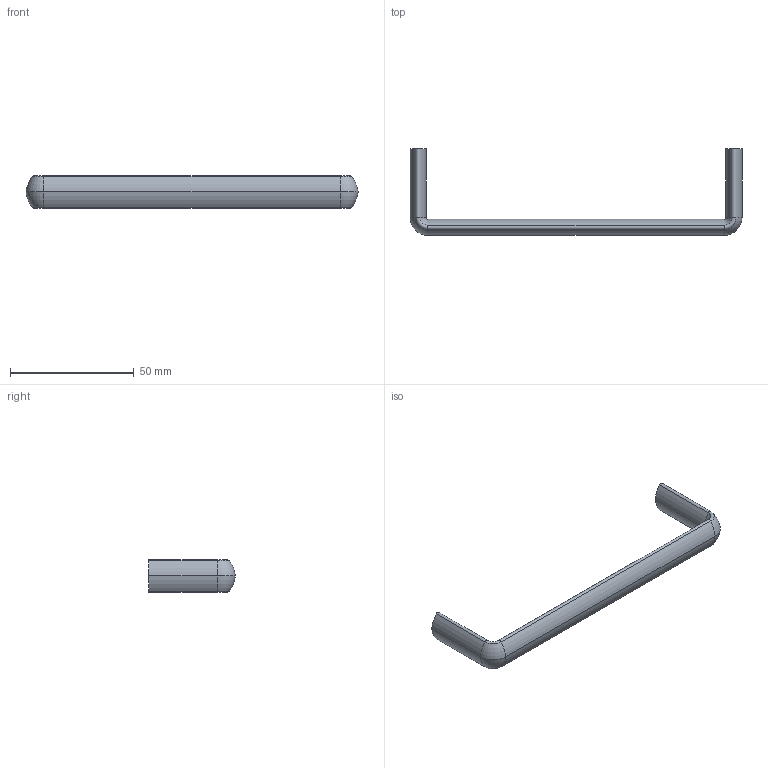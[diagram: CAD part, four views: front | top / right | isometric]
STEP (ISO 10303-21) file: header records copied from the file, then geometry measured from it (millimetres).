
FILE_DESCRIPTION( ( '' ), '1' );
FILE_NAME( 'C:/Users/Apurva/Desktop/Apurva/boma_handle/9995471.stp', '2015-07-08T05:45:42', ( '' ), ( '' ), ' ', ' ', ' ' );
FILE_SCHEMA( ( 'automotive_design' ) );
Length unit declared in the file: millimetre
Products named in the file (1): 1
Bounding box: 134 x 35 x 13 mm (x, y, z)
Volume: 10759.7 mm3; surface area: 6010.3 mm2
Topology: 1 solids, 1 shells, 38 faces, 78 edges, 44 vertices
Faces by surface type: cylinder 22, torus 12, plane 4
Entity records: 1944 total; most frequent: DIRECTION 212, STYLED_ITEM 161, PRESENTATION_STYLE_ASSIGNMENT 161, CARTESIAN_POINT 161, COLOUR_RGB 161, ORIENTED_EDGE 156, AXIS2_PLACEMENT_3D 95, EDGE_CURVE 78
